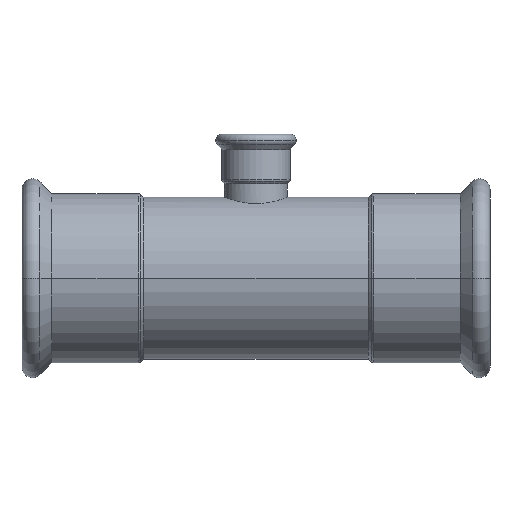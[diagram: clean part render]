
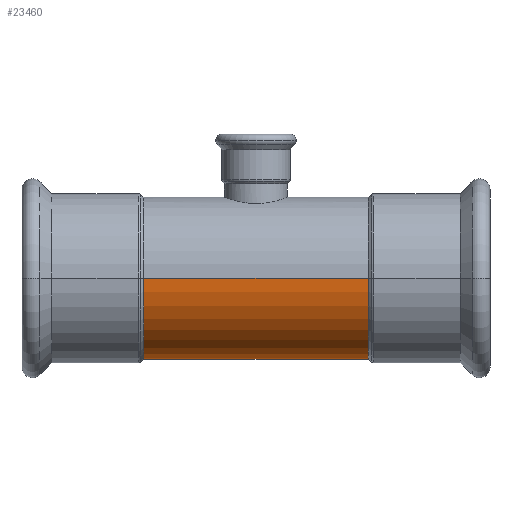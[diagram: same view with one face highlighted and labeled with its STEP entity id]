
A CAD part, front view. The second image highlights one B-rep face of the part: STEP entity #23460.
In plain terms, the highlighted cylindrical face has radius 54 mm (diameter 108 mm), a partial arc.
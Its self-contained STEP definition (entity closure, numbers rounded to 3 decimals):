
#1170=CARTESIAN_POINT('',(24.846,134.131,0.));
#1180=DIRECTION('',(1.,0.,0.));
#1190=DIRECTION('',(0.,0.,-1.));
#1200=AXIS2_PLACEMENT_3D('',#1170,#1180,#1190);
#1210=CYLINDRICAL_SURFACE('',#1200,54.);
#23100=CARTESIAN_POINT('',(24.846,134.131,54.));
#23110=DIRECTION('',(1.,0.,0.));
#23120=VECTOR('',#23110,1.);
#23130=LINE('',#23100,#23120);
#23140=CARTESIAN_POINT('',(-125.154,134.131,54.));
#23150=VERTEX_POINT('',#23140);
#23160=CARTESIAN_POINT('',(24.846,134.131,54.));
#23170=VERTEX_POINT('',#23160);
#23180=EDGE_CURVE('',#23150,#23170,#23130,.T.);
#23190=ORIENTED_EDGE('',*,*,#23180,.F.);
#23200=CARTESIAN_POINT('',(24.846,134.131,0.));
#23210=DIRECTION('',(1.,0.,0.));
#23220=DIRECTION('',(0.,0.,1.));
#23230=AXIS2_PLACEMENT_3D('',#23200,#23210,#23220);
#23240=CIRCLE('',#23230,54.);
#23250=CARTESIAN_POINT('',(24.846,134.131,-54.));
#23260=VERTEX_POINT('',#23250);
#23270=EDGE_CURVE('',#23170,#23260,#23240,.T.);
#23280=ORIENTED_EDGE('',*,*,#23270,.F.);
#23290=CARTESIAN_POINT('',(24.846,134.131,-54.));
#23300=DIRECTION('',(1.,0.,0.));
#23310=VECTOR('',#23300,1.);
#23320=LINE('',#23290,#23310);
#23330=CARTESIAN_POINT('',(-125.154,134.131,-54.));
#23340=VERTEX_POINT('',#23330);
#23350=EDGE_CURVE('',#23340,#23260,#23320,.T.);
#23360=ORIENTED_EDGE('',*,*,#23350,.T.);
#23370=CARTESIAN_POINT('',(-125.154,134.131,0.));
#23380=DIRECTION('',(1.,0.,0.));
#23390=DIRECTION('',(0.,0.,-1.));
#23400=AXIS2_PLACEMENT_3D('',#23370,#23380,#23390);
#23410=CIRCLE('',#23400,54.);
#23420=EDGE_CURVE('',#23150,#23340,#23410,.T.);
#23430=ORIENTED_EDGE('',*,*,#23420,.T.);
#23440=EDGE_LOOP('',(#23430,#23360,#23280,#23190));
#23450=FACE_OUTER_BOUND('',#23440,.T.);
#23460=ADVANCED_FACE('',(#23450),#1210,.T.);
